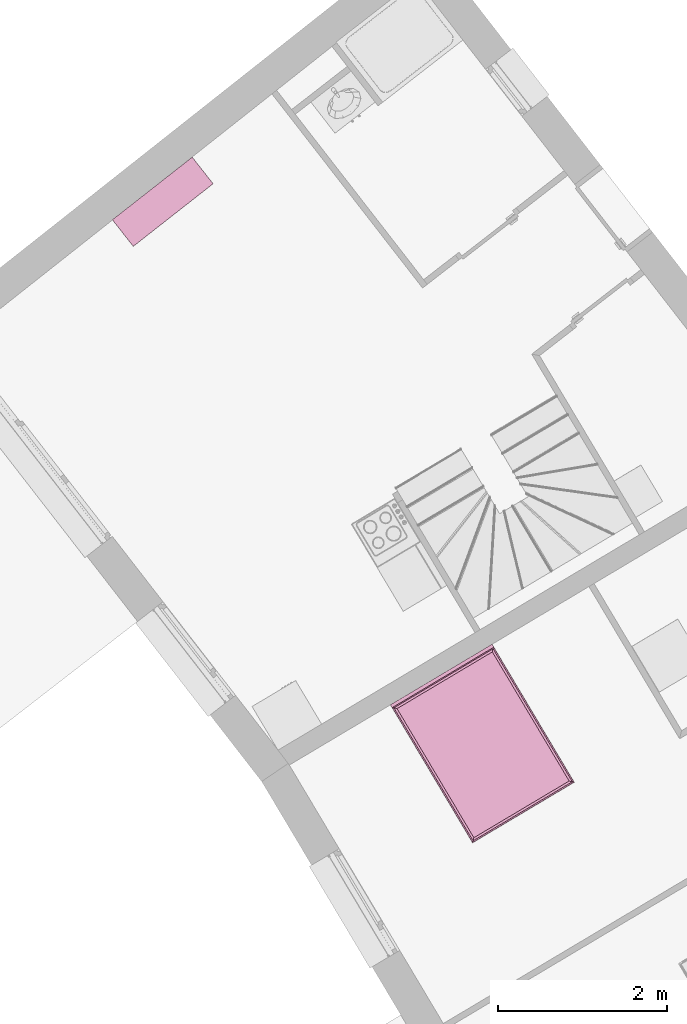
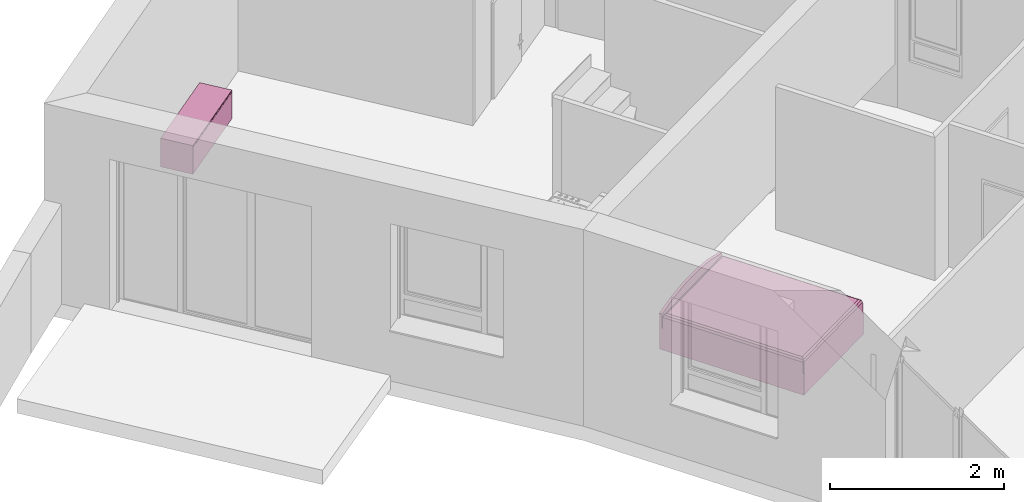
# One storey, part 155 of 195: 2 furnishings.
"""IFC2X3 building model written with IfcOpenShell, lengths in metres."""

from ifc_helpers import new_model, entity, si_unit, converted_unit, derived_unit, money_unit, direction, frame, origin_with_axes, place, context, subcontext, project, spatial, open_shell, faceted_brep, surface_model, source, transform, mapped, type_object, element, save


model = new_model("IFC2X3")

# Units and contexts
model_context = context("Model", 3, precision=1e-05, world=origin_with_axes(), true_north=direction((0.0, 1.0)))
body_context = subcontext(model_context, "Body", "Model", "MODEL_VIEW")
ifc_project = project(units=[si_unit("LENGTHUNIT", "METRE"), si_unit("AREAUNIT", "SQUARE_METRE"), si_unit("VOLUMEUNIT", "CUBIC_METRE"), converted_unit("PLANEANGLEUNIT", "DEGREE", entity("IfcPlaneAngleMeasure", 0.0174532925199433), si_unit("PLANEANGLEUNIT", "RADIAN"), dimensions=[0, 0, 0, 0, 0, 0, 0]), money_unit("CHF"), converted_unit("TIMEUNIT", "Year", entity("IfcTimeMeasure", 31557600.0), si_unit("TIMEUNIT", "SECOND"), dimensions=[0, 0, 1, 0, 0, 0, 0]), si_unit("MASSUNIT", "GRAM", prefix="KILO"), si_unit("THERMODYNAMICTEMPERATUREUNIT", "DEGREE_CELSIUS"), si_unit("LUMINOUSINTENSITYUNIT", "LUMEN"), si_unit("ENERGYUNIT", "JOULE", prefix="MEGA"), derived_unit("THERMALCONDUCTANCEUNIT", [(si_unit("POWERUNIT", "WATT"), 1), (si_unit("LENGTHUNIT", "METRE"), -1), (si_unit("THERMODYNAMICTEMPERATUREUNIT", "KELVIN"), -1)]), derived_unit("SPECIFICHEATCAPACITYUNIT", [(si_unit("ENERGYUNIT", "JOULE"), 1), (si_unit("MASSUNIT", "GRAM", prefix="KILO"), -1), (si_unit("THERMODYNAMICTEMPERATUREUNIT", "KELVIN"), -1)]), derived_unit("MASSDENSITYUNIT", [(si_unit("MASSUNIT", "GRAM", prefix="KILO"), 1), (si_unit("VOLUMEUNIT", "CUBIC_METRE"), -1)])], contexts=[model_context])

# Site, building, storey
site_placement = place(None, origin_with_axes())
site = spatial("IfcSite", under=ifc_project, at=site_placement, Name="Site", CompositionType="ELEMENT")
building_placement = place(site_placement, origin_with_axes())
building = spatial("IfcBuilding", under=site, at=building_placement, Name="Bâtiment", CompositionType="ELEMENT")
storey_placement = place(building_placement, origin_with_axes())
storey = spatial("IfcBuildingStorey", under=building, at=storey_placement, Name="rdc", CompositionType="ELEMENT", Elevation=0.0)

# Furnishings
furnishing_element_type_1 = type_object("IfcFurnishingElementType", Name="Meuble à plans 27")
shared_shape_1 = source(origin_with_axes(), body_context, "Body", "SurfaceModel", [
    surface_model("IfcShellBasedSurfaceModel", [(-1.18, 0.02, 0.0), (-1.18, 0.4, 0.0), (-0.02, 0.4, 0.0), (-0.02, 0.02, 0.0)], [open_shell([[[0, 1, 2, 3]]])]),
    faceted_brep([(0.0, 0.4, 0.0), (0.0, 0.0, 0.0), (-1.2, 0.0, 0.0), (-1.2, 0.4, 0.0), (0.0, 0.4, 0.4), (0.0, 0.0, 0.4), (-1.2, 0.0, 0.4), (-0.02, 0.0, 0.02), (-1.18, 0.0, 0.02), (-1.18, 0.0, 0.38), (-0.02, 0.0, 0.38), (-1.2, 0.4, 0.4), (-0.02, 0.4, 0.01999999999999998), (-0.02, 0.4, 0.38), (-1.18, 0.4, 0.38), (-1.18, 0.4, 0.01999999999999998)], [[[0, 1, 2, 3]], [[4, 5, 1, 0]], [[1, 5, 6, 2], [7, 8, 9, 10]], [[3, 2, 6, 11]], [[0, 3, 11, 4], [12, 13, 14, 15]], [[11, 6, 5, 4]], [[15, 8, 7, 12]], [[14, 9, 8, 15]], [[13, 10, 9, 14]], [[12, 7, 10, 13]]]),
    faceted_brep([(-1.18, 0.4, 0.01999999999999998), (-1.18, 0.4, 0.38), (-0.02, 0.4, 0.38), (-0.02, 0.4, 0.01999999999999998), (-1.18, 0.38, 0.01999999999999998), (-1.18, 0.3800000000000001, 0.38), (-0.02, 0.3800000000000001, 0.38), (-0.02, 0.38, 0.01999999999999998)], [[[0, 1, 2, 3]], [[0, 4, 5, 1]], [[1, 5, 6, 2]], [[2, 6, 7, 3]], [[3, 7, 4, 0]], [[7, 6, 5, 4]]]),
    faceted_brep([(-1.18, 0.0, 0.02), (-1.18, 0.38, 0.02), (-0.02, 0.38, 0.02), (-0.02, 0.0, 0.02), (-1.18, 0.0, 0.3750000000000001), (-1.18, 0.38, 0.3750000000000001), (-0.02, 0.38, 0.3750000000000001), (-0.02, 0.0, 0.3750000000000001)], [[[0, 1, 2, 3]], [[0, 4, 5, 1]], [[1, 5, 6, 2]], [[2, 6, 7, 3]], [[3, 7, 4, 0]], [[7, 6, 5, 4]]]),
])
furnishing_1_placement = place(storey_placement, frame((9537.872263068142, -1040.137987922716, 57.92018680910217), z_axis=(0.0, 0.0, 1.0), x_axis=(0.786895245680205, 0.6170866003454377, 0.0)))
element("IfcFurnishingElement", 1, at=furnishing_1_placement, inside=storey, type_object=furnishing_element_type_1, Name="Obj.-376", context=body_context, shape_type="MappedRepresentation", body=[
    mapped(shared_shape_1, transform((0.0, 0.0, 0.0))),
])
furnishing_element_type_2 = type_object("IfcFurnishingElementType", Name="Lit double 01")
shared_shape_2 = source(origin_with_axes(), body_context, "Body", "Brep", [
    faceted_brep([(0.0, 1.895, 0.0), (0.0, 1.865, 0.0), (-1.4, 1.865, 0.0), (-1.4, 1.895, 0.0), (0.0, 1.895, 0.48), (0.0, 1.865, 0.48), (-0.276362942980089, 1.865, 0.5438448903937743), (-0.558179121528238, 1.865, 0.5759741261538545), (-0.8418208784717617, 1.865, 0.5759741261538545), (-1.123637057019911, 1.865, 0.5438448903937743), (-1.4, 1.865, 0.48), (-1.4, 1.865, 0.4799), (-1.4, 1.895, 0.4799), (-1.4, 1.895, 0.48), (-1.123637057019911, 1.895, 0.5438448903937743), (-0.8418208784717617, 1.895, 0.5759741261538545), (-0.558179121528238, 1.895, 0.5759741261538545), (-0.276362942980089, 1.895, 0.5438448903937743)], [[[0, 1, 2, 3]], [[4, 5, 1, 0]], [[1, 5, 6, 7, 8, 9, 10, 11, 2]], [[3, 2, 11, 12]], [[0, 3, 12, 13, 14, 15, 16, 17, 4]], [[17, 6, 5, 4]], [[16, 7, 6, 17]], [[15, 8, 7, 16]], [[14, 9, 8, 15]], [[13, 10, 9, 14]], [[12, 11, 10, 13]]]),
    faceted_brep([(-1.4, 1.9, 0.48), (-1.4, 1.86, 0.48), (-1.399999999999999, 1.86, 0.4999999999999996), (-1.399999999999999, 1.9, 0.4999999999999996), (-1.123637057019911, 1.9, 0.5438448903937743), (-1.123637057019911, 1.86, 0.5438448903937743), (-0.8418208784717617, 1.86, 0.5759741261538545), (-0.558179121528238, 1.86, 0.5759741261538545), (-0.276362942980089, 1.86, 0.5438448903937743), (0.0, 1.86, 0.48), (0.0, 1.86, 0.4999), (0.0, 1.86, 0.5), (-0.276362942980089, 1.86, 0.5638448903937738), (-0.5581791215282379, 1.86, 0.5959741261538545), (-0.8418208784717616, 1.86, 0.5959741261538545), (-1.123637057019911, 1.86, 0.5638448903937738), (-1.123637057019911, 1.9, 0.5638448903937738), (-0.8418208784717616, 1.9, 0.5959741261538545), (-0.5581791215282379, 1.9, 0.5959741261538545), (-0.276362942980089, 1.9, 0.5638448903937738), (0.0, 1.9, 0.5), (0.0, 1.9, 0.4999), (0.0, 1.9, 0.48), (-0.276362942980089, 1.9, 0.5438448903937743), (-0.558179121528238, 1.9, 0.5759741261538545), (-0.8418208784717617, 1.9, 0.5759741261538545)], [[[0, 1, 2, 3]], [[4, 5, 1, 0]], [[1, 5, 6, 7, 8, 9, 10, 11, 12, 13, 14, 15, 2]], [[3, 2, 15, 16]], [[0, 3, 16, 17, 18, 19, 20, 21, 22, 23, 24, 25, 4]], [[25, 6, 5, 4]], [[24, 7, 6, 25]], [[23, 8, 7, 24]], [[22, 9, 8, 23]], [[21, 10, 9, 22]], [[20, 11, 10, 21]], [[19, 12, 11, 20]], [[18, 13, 12, 19]], [[17, 14, 13, 18]], [[16, 15, 14, 17]]]),
    faceted_brep([(-1.4, 0.0, 0.0), (-1.4, 1.865, 0.0), (0.0, 1.865, 0.0), (0.0, 0.0, 0.0), (-1.4, 0.0, 0.3), (-1.4, 1.865, 0.3), (0.0, 1.865, 0.3), (0.0, 0.0, 0.3)], [[[0, 1, 2, 3]], [[0, 4, 5, 1]], [[1, 5, 6, 2]], [[2, 6, 7, 3]], [[3, 7, 4, 0]], [[7, 6, 5, 4]]]),
    faceted_brep([(0.0, 0.02, 0.43), (-0.002679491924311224, 0.01, 0.43), (-0.009999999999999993, 0.002679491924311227, 0.43), (-0.01999999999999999, 0.0, 0.43), (-1.38, 0.0, 0.43), (-1.39, 0.002679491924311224, 0.43), (-1.397320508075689, 0.009999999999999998, 0.43), (-1.4, 0.02, 0.43), (-1.4, 1.845, 0.43), (-1.397320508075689, 1.855, 0.43), (-1.39, 1.862320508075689, 0.43), (-1.38, 1.865, 0.43), (-0.02, 1.865, 0.43), (-0.009999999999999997, 1.862320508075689, 0.43), (-0.002679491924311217, 1.855, 0.43), (0.0, 1.845, 0.43), (3.895163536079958e-10, 0.02000000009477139, 0.44), (-0.002679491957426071, 0.0100000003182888, 0.44), (-0.0100000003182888, 0.002679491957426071, 0.44), (-0.02000000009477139, -3.895163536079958e-10, 0.44), (-1.380000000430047, -3.895163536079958e-10, 0.44), (-1.39000000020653, 0.002679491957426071, 0.44), (-1.39732050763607, 0.0100000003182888, 0.44), (-1.399999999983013, 0.02000000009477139, 0.44), (-1.399999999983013, 1.845000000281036, 0.44), (-1.39732050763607, 1.855000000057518, 0.44), (-1.39000000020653, 1.862320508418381, 0.44), (-1.380000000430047, 1.864999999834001, 0.44), (-0.02000000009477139, 1.864999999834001, 0.44), (-0.0100000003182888, 1.862320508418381, 0.44), (-0.002679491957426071, 1.855000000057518, 0.44), (3.895163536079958e-10, 1.845000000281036, 0.44), (-0.002044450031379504, 0.02026915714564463, 0.4555291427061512), (-0.004512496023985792, 0.01105828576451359, 0.4555291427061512), (-0.01105828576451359, 0.004512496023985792, 0.4555291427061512), (-0.02026915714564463, 0.002044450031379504, 0.4555291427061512), (-1.379730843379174, 0.002044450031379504, 0.4555291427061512), (-1.388941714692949, 0.004512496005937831, 0.4555291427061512), (-1.395487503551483, 0.01105828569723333, 0.4555291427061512), (-1.397955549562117, 0.02026915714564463, 0.4555291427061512), (-1.397955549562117, 1.844730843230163, 0.4555291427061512), (-1.395487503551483, 1.853941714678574, 0.4555291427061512), (-1.388941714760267, 1.860487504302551, 0.4555291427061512), (-1.379730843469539, 1.862955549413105, 0.4555291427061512), (-0.02026915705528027, 1.862955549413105, 0.4555291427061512), (-0.01105828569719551, 1.860487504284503, 0.4555291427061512), (-0.004512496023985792, 1.853941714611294, 0.4555291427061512), (-0.002044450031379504, 1.844730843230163, 0.4555291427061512), (-0.01757359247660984, 0.02231360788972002, 0.4824264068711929), (-0.01843554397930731, 0.01909676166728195, 0.4824264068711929), (-0.01909676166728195, 0.01843554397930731, 0.4824264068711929), (-0.02231360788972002, 0.01757359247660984, 0.4824264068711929), (-1.377686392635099, 0.01757359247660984, 0.4824264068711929), (-1.380903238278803, 0.01843554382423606, 0.4824264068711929), (-1.381564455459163, 0.01909676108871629, 0.4824264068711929), (-1.382426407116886, 0.02231360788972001, 0.4824264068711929), (-1.382426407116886, 1.842686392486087, 0.4824264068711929), (-1.381564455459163, 1.845903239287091, 0.4824264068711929), (-1.380903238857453, 1.846564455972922, 0.4824264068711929), (-1.377686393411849, 1.847426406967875, 0.4824264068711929), (-0.02231360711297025, 1.847426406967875, 0.4824264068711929), (-0.01909676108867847, 1.846564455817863, 0.4824264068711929), (-0.01843554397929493, 1.845903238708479, 0.4824264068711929), (-0.01757359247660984, 1.842686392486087, 0.4824264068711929), (-0.02303225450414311, 0.02303225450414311, 0.4855779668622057), (-0.02000000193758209, 0.02000000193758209, 0.4834338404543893), (-0.04447085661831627, 0.04447085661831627, 0.4979555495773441), (-1.35552914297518, 0.04447085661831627, 0.4979555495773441), (-1.376967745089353, 0.02303225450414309, 0.4855779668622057), (-1.379999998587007, 0.02000000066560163, 0.4834338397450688), (-1.35552914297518, 1.820529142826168, 0.4979555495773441), (-1.376967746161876, 1.841967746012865, 0.4855779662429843), (-1.380000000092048, 1.845000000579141, 0.4834338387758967), (-0.04447085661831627, 1.820529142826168, 0.4979555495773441), (-0.02303225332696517, 1.841967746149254, 0.48557796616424), (-0.02000000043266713, 1.844999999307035, 0.4834338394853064), (-0.05999999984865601, 0.05999999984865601, 0.5000000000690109), (-1.33999999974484, 0.05999999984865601, 0.5000000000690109), (-1.33999999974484, 1.804999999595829, 0.5000000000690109), (-0.05999999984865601, 1.804999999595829, 0.5000000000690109)], [[[0, 1, 2, 3, 4, 5, 6, 7, 8, 9, 10, 11, 12, 13, 14, 15]], [[0, 16, 17, 1]], [[1, 17, 18, 2]], [[2, 18, 19, 3]], [[3, 19, 20, 4]], [[4, 20, 21, 5]], [[5, 21, 22, 6]], [[6, 22, 23, 7]], [[7, 23, 24, 8]], [[8, 24, 25, 9]], [[9, 25, 26, 10]], [[10, 26, 27, 11]], [[11, 27, 28, 12]], [[12, 28, 29, 13]], [[13, 29, 30, 14]], [[14, 30, 31, 15]], [[15, 31, 16, 0]], [[16, 32, 33, 17]], [[17, 33, 34, 18]], [[18, 34, 35, 19]], [[19, 35, 36, 20]], [[20, 36, 37, 21]], [[21, 37, 38, 22]], [[22, 38, 39, 23]], [[23, 39, 40, 24]], [[24, 40, 41, 25]], [[25, 41, 42, 26]], [[26, 42, 43, 27]], [[27, 43, 44, 28]], [[28, 44, 45, 29]], [[29, 45, 46, 30]], [[30, 46, 47, 31]], [[31, 47, 32, 16]], [[32, 48, 49, 33]], [[33, 49, 50, 34]], [[34, 50, 51, 35]], [[35, 51, 52, 36]], [[36, 52, 53, 37]], [[37, 53, 54, 38]], [[38, 54, 55, 39]], [[39, 55, 56, 40]], [[40, 56, 57, 41]], [[41, 57, 58, 42]], [[42, 58, 59, 43]], [[43, 59, 60, 44]], [[44, 60, 61, 45]], [[45, 61, 62, 46]], [[46, 62, 63, 47]], [[47, 63, 48, 32]], [[48, 64, 65, 49]], [[49, 65, 50]], [[50, 65, 64, 51]], [[51, 64, 66, 67, 68, 52]], [[52, 68, 69, 53]], [[53, 69, 54]], [[54, 69, 68, 55]], [[55, 68, 67, 70, 71, 56]], [[56, 71, 72, 57]], [[57, 72, 58]], [[58, 72, 71, 59]], [[59, 71, 70, 73, 74, 60]], [[60, 74, 75, 61]], [[61, 75, 62]], [[62, 75, 74, 63]], [[63, 74, 73, 66, 64, 48]], [[66, 76, 77, 67]], [[67, 77, 78, 70]], [[70, 78, 79, 73]], [[73, 79, 76, 66]], [[78, 77, 76, 79]]]),
    faceted_brep([(-1.39000000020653, 0.002679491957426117, 0.2999999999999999), (-1.39, 0.002679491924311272, 0.3099999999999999), (-1.397320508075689, 0.01000000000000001, 0.3099999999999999), (-1.39732050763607, 0.01000000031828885, 0.2999999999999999), (-1.380000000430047, -3.895163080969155e-10, 0.2999999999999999), (-1.38, 0.0, 0.3099999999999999), (-1.4, 0.02000000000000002, 0.3099999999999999), (-0.02000000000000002, 0.0, 0.3099999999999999), (-0.01000000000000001, 0.002679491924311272, 0.3099999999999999), (-0.002679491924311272, 0.01000000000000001, 0.3099999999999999), (0.0, 0.02000000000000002, 0.3099999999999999), (0.0, 1.845, 0.3099999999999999), (-0.002679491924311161, 1.855, 0.3099999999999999), (-0.01000000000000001, 1.862320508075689, 0.3099999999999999), (-0.02000000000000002, 1.865, 0.3099999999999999), (-1.38, 1.865, 0.3099999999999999), (-1.39, 1.862320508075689, 0.3099999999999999), (-1.397320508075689, 1.855, 0.3099999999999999), (-1.4, 1.845, 0.3099999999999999), (-1.399999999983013, 0.02000000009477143, 0.2999999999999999), (-1.399999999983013, 1.845000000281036, 0.2999999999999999), (-1.39732050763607, 1.855000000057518, 0.2999999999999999), (-1.39000000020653, 1.862320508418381, 0.2999999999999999), (-1.380000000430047, 1.864999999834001, 0.2999999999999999), (-0.02000000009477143, 1.864999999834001, 0.2999999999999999), (-0.01000000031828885, 1.862320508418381, 0.2999999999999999), (-0.002679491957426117, 1.855000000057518, 0.2999999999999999), (3.895163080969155e-10, 1.845000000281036, 0.2999999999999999), (3.895163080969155e-10, 0.02000000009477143, 0.2999999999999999), (-0.002679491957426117, 0.01000000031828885, 0.2999999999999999), (-0.01000000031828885, 0.002679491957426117, 0.2999999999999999), (-0.02000000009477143, -3.895163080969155e-10, 0.2999999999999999)], [[[0, 1, 2, 3]], [[1, 0, 4, 5]], [[6, 2, 1, 5, 7, 8, 9, 10, 11, 12, 13, 14, 15, 16, 17, 18]], [[3, 2, 6, 19]], [[3, 19, 20, 21, 22, 23, 24, 25, 26, 27, 28, 29, 30, 31, 4, 0]], [[7, 5, 4, 31]], [[30, 8, 7, 31]], [[8, 30, 29, 9]], [[9, 29, 28, 10]], [[10, 28, 27, 11]], [[26, 12, 11, 27]], [[12, 26, 25, 13]], [[25, 24, 14, 13]], [[24, 23, 15, 14]], [[22, 16, 15, 23]], [[21, 17, 16, 22]], [[17, 21, 20, 18]], [[19, 6, 18, 20]]]),
    faceted_brep([(0.0, 0.02, 0.3099999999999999), (0.0, 0.02, 0.4299999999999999), (-0.002679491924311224, 0.01, 0.4299999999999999), (-0.002679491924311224, 0.01, 0.3099999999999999), (0.0, 1.845, 0.3099999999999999), (0.0, 1.845, 0.4299999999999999), (-0.002679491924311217, 1.855, 0.4299999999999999), (-0.009999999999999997, 1.862320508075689, 0.4299999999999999), (-0.02, 1.865, 0.4299999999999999), (-1.38, 1.865, 0.4299999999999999), (-1.39, 1.862320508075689, 0.4299999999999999), (-1.397320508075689, 1.855, 0.4299999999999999), (-1.4, 1.845, 0.4299999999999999), (-1.4, 0.02, 0.4299999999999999), (-1.397320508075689, 0.009999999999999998, 0.4299999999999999), (-1.39, 0.002679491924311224, 0.4299999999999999), (-1.38, 0.0, 0.4299999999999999), (-0.01999999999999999, 0.0, 0.4299999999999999), (-0.009999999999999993, 0.002679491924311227, 0.4299999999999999), (-0.009999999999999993, 0.002679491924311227, 0.3099999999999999), (-0.01999999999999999, 0.0, 0.3099999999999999), (-1.38, 0.0, 0.3099999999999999), (-1.39, 0.002679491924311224, 0.3099999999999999), (-1.397320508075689, 0.009999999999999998, 0.3099999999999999), (-1.4, 0.02, 0.3099999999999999), (-1.4, 1.845, 0.3099999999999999), (-1.397320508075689, 1.855, 0.3099999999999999), (-1.39, 1.862320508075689, 0.3099999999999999), (-1.38, 1.865, 0.3099999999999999), (-0.02, 1.865, 0.3099999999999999), (-0.009999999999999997, 1.862320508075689, 0.3099999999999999), (-0.002679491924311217, 1.855, 0.3099999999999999)], [[[0, 1, 2, 3]], [[4, 5, 1, 0]], [[1, 5, 6, 7, 8, 9, 10, 11, 12, 13, 14, 15, 16, 17, 18, 2]], [[3, 2, 18, 19]], [[0, 3, 19, 20, 21, 22, 23, 24, 25, 26, 27, 28, 29, 30, 31, 4]], [[31, 6, 5, 4]], [[30, 7, 6, 31]], [[29, 8, 7, 30]], [[28, 9, 8, 29]], [[27, 10, 9, 28]], [[26, 11, 10, 27]], [[25, 12, 11, 26]], [[24, 13, 12, 25]], [[23, 14, 13, 24]], [[22, 15, 14, 23]], [[21, 16, 15, 22]], [[20, 17, 16, 21]], [[19, 18, 17, 20]]]),
])
furnishing_2_placement = place(storey_placement, frame((9542.14331857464, -1047.215544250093, 57.7), z_axis=(0.0, 0.0, 1.0), x_axis=(0.8592393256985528, 0.5115738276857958, 0.0)))
element("IfcFurnishingElement", 2, at=furnishing_2_placement, inside=storey, type_object=furnishing_element_type_2, Name="Obj.-002", context=body_context, shape_type="MappedRepresentation", body=[
    mapped(shared_shape_2, transform((0.0, 0.0, 0.0))),
])

save(model, "model.ifc")
